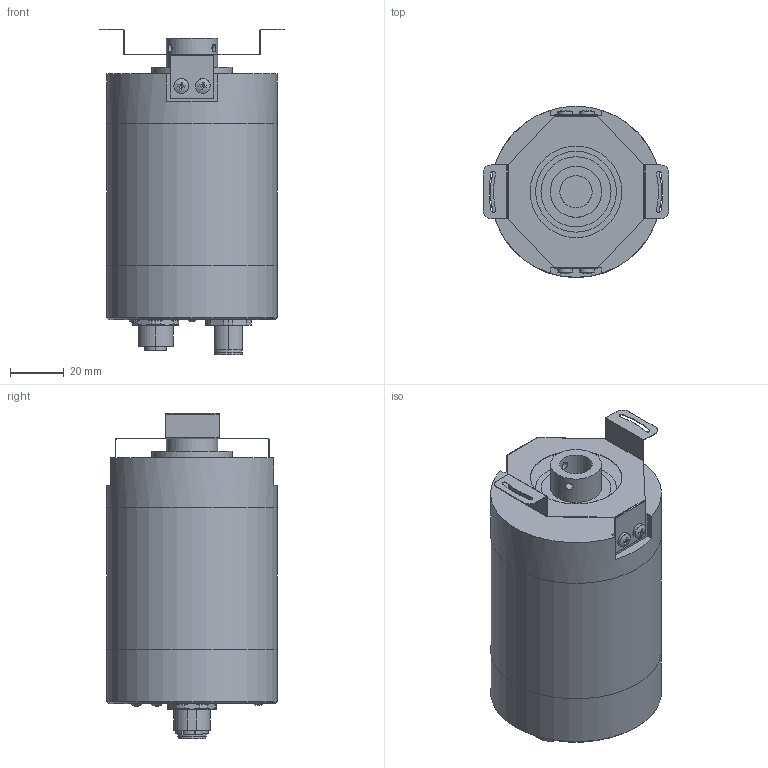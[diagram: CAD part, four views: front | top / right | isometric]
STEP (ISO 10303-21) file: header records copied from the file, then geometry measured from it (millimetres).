
FILE_DESCRIPTION(/* description */ ('Alibre Inc.'),/* implementation_level */ '2;1');
FILE_NAME(/* name */ 'export0',/* time_stamp */ '2010-05-25T09:15:31-04:00',/* author */ (''),/* organization */ (''),/* preprocessor_version */ 'ST-DEVELOPER v10',/* originating_system */ 'Alibre',/* authorisation */ '');
FILE_SCHEMA (('CONFIG_CONTROL_DESIGN'));
Length unit declared in the file: centimetre
Products named in the file (14): ID_1; ID_2; ID_3; ID_4; ID_5; ID_6; ID_7; ID_8; ID_9; ID_10; ID_11; ID_12
Bounding box: 69 x 63.5 x 120.87 mm (x, y, z)
Volume: 286855.8 mm3; surface area: 58510 mm2
Topology: 16 solids, 16 shells, 447 faces, 1056 edges, 689 vertices
Faces by surface type: plane 173, cylinder 152, bspline 76, cone 35, sphere 8, torus 3
Full cylindrical faces by diameter (mm): 2.87 x11, 2.92 x2, 3 x20, 3.2 x4, 3.96 x4, 5.44 x4, 11.5 x1, 12 x1, 19 x3, 20 x2, 24 x2, 26 x2, 30 x1, 34 x1, 37 x2, 58.72 x2, 63.5 x3
Entity records: 12404 total; most frequent: CARTESIAN_POINT 2752, DIRECTION 1620, ORIENTED_EDGE 1576, EDGE_CURVE 788, AXIS2_PLACEMENT_3D 715, VERTEX_POINT 552, EDGE_LOOP 518, FACE_BOUND 518
